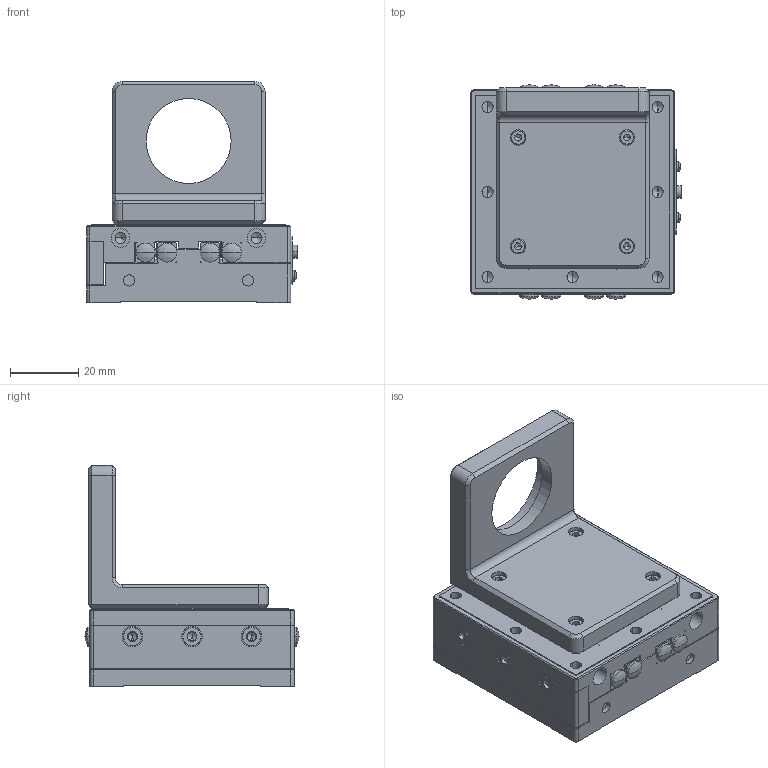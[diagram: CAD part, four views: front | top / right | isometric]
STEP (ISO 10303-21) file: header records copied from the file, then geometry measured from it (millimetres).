
FILE_DESCRIPTION (( 'STEP AP203' ), '1' );
FILE_NAME ('0618Z.STEP', '2023-04-26T05:43:45', ( '微软用户' ), ( '微软中国' ), 'SwSTEP 2.0', 'SolidWorks 2021', '' );
FILE_SCHEMA (( 'CONFIG_CONTROL_DESIGN' ));
Products named in the file (1): 0618Z
Bounding box: 62 x 63 x 65 mm (x, y, z)
Volume: 101577.2 mm3; surface area: 46144.6 mm2
Topology: 13 solids, 24 shells, 1534 faces, 3867 edges, 2382 vertices
Faces by surface type: plane 751, cylinder 455, cone 286, sphere 30, torus 12
Entity records: 46294 total; most frequent: CARTESIAN_POINT 8785, DIRECTION 8022, ORIENTED_EDGE 7606, EDGE_CURVE 3803, AXIS2_PLACEMENT_3D 2866, VERTEX_POINT 2382, LINE 2290, VECTOR 2290
